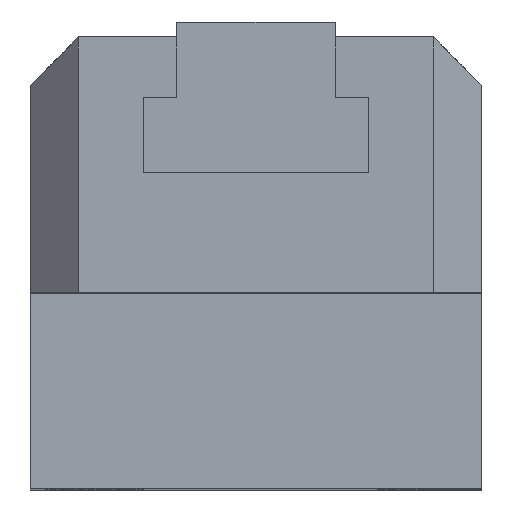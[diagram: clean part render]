
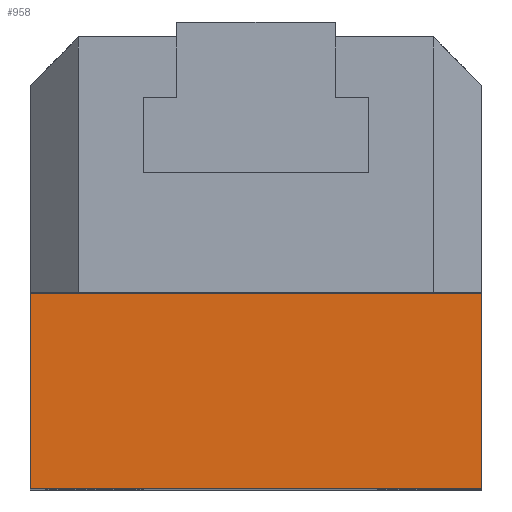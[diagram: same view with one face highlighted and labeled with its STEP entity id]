
A CAD part, top view. The second image highlights one B-rep face of the part: STEP entity #958.
In plain terms, the highlighted planar face has unit normal (0, 0, 1).
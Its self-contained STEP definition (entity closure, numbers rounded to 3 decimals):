
#461 = EDGE_CURVE ( 'NONE', #642, #3205, #2590, .T. ) ;
#580 = VERTEX_POINT ( 'NONE', #2796 ) ;
#581 = EDGE_CURVE ( 'NONE', #580, #3205, #2792, .T. ) ;
#642 = VERTEX_POINT ( 'NONE', #2695 ) ;
#700 = EDGE_CURVE ( 'NONE', #701, #580, #3380, .T. ) ;
#701 = VERTEX_POINT ( 'NONE', #3381 ) ;
#957 = EDGE_CURVE ( 'NONE', #642, #701, #3584, .T. ) ;
#958 = ADVANCED_FACE ( 'NONE', ( #3578 ), #3586, .F. ) ;
#959 = ORIENTED_EDGE ( 'NONE', *, *, #700, .T. ) ;
#960 = ORIENTED_EDGE ( 'NONE', *, *, #957, .T. ) ;
#961 = ORIENTED_EDGE ( 'NONE', *, *, #581, .T. ) ;
#963 = ORIENTED_EDGE ( 'NONE', *, *, #461, .F. ) ;
#965 = EDGE_LOOP ( 'NONE', ( #960, #959, #961, #963 ) ) ;
#2586 = DIRECTION ( 'NONE',  ( 0., -1., 0. ) ) ;
#2587 = VECTOR ( 'NONE', #2586, 1000. ) ;
#2589 = CARTESIAN_POINT ( 'NONE',  ( 15., 62.129, 21. ) ) ;
#2590 = LINE ( 'NONE', #2589, #2587 ) ;
#2695 = CARTESIAN_POINT ( 'NONE',  ( 15., 13., 21. ) ) ;
#2789 = DIRECTION ( 'NONE',  ( 1., 0., 0. ) ) ;
#2790 = VECTOR ( 'NONE', #2789, 1000. ) ;
#2791 = CARTESIAN_POINT ( 'NONE',  ( 15., 0., 21. ) ) ;
#2792 = LINE ( 'NONE', #2791, #2790 ) ;
#2796 = CARTESIAN_POINT ( 'NONE',  ( -15., 0., 21. ) ) ;
#3205 = VERTEX_POINT ( 'NONE', #5232 ) ;
#3377 = DIRECTION ( 'NONE',  ( 0., -1., 0. ) ) ;
#3378 = VECTOR ( 'NONE', #3377, 1000. ) ;
#3379 = CARTESIAN_POINT ( 'NONE',  ( -15., 62.129, 21. ) ) ;
#3380 = LINE ( 'NONE', #3379, #3378 ) ;
#3381 = CARTESIAN_POINT ( 'NONE',  ( -15., 13., 21. ) ) ;
#3574 = DIRECTION ( 'NONE',  ( 0., 0., -1. ) ) ;
#3575 = DIRECTION ( 'NONE',  ( -1., 0., 0. ) ) ;
#3576 = CARTESIAN_POINT ( 'NONE',  ( 15., 62.129, 21. ) ) ;
#3578 = FACE_OUTER_BOUND ( 'NONE', #965, .T. ) ;
#3584 = LINE ( 'NONE', #3587, #3592 ) ;
#3586 = PLANE ( 'NONE',  #3684 ) ;
#3587 = CARTESIAN_POINT ( 'NONE',  ( 15., 13., 21. ) ) ;
#3592 = VECTOR ( 'NONE', #3575, 1000. ) ;
#3626 = DIRECTION ( 'NONE',  ( -1., 0., 0. ) ) ;
#3684 = AXIS2_PLACEMENT_3D ( 'NONE', #3576, #3574, #3626 ) ;
#5232 = CARTESIAN_POINT ( 'NONE',  ( 15., 0., 21. ) ) ;
